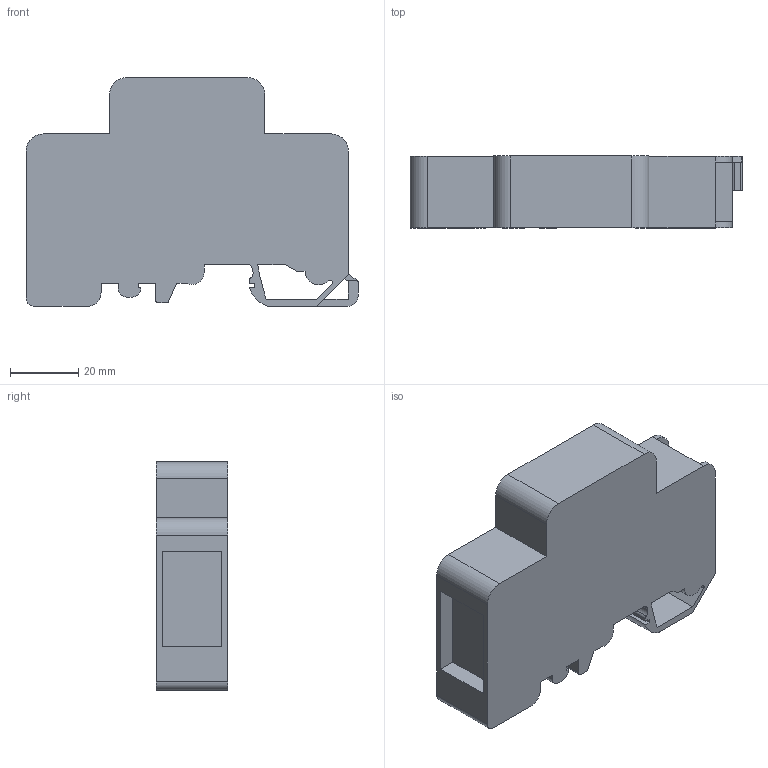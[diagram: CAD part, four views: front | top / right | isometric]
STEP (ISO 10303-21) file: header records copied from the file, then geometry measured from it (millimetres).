
FILE_DESCRIPTION(/* description */ ('Unknown'),/* implementation_level */ '2;1');
FILE_NAME(/* name */ 'DTB 35_2x16+2x6',/* time_stamp */ '2024-05-27T06:33:11+02:00',/* author */ ('Unknown'),/* organization */ ('Unknown'),/* preprocessor_version */ 'ST-DEVELOPER v19.4',/* originating_system */ 'Solid Edge',/* authorisation */ 'Unknown');
FILE_SCHEMA (('AUTOMOTIVE_DESIGN {1 0 10303 214 3 1 1}'));
Length unit declared in the file: millimetre
Products named in the file (1): DTB 35_2x16+2x6
Bounding box: 97.3 x 21 x 67 mm (x, y, z)
Volume: 95861.4 mm3; surface area: 20226.7 mm2
Topology: 1 solids, 1 shells, 78 faces, 224 edges, 148 vertices
Faces by surface type: plane 54, cylinder 24
Entity records: 2583 total; most frequent: CARTESIAN_POINT 451, ORIENTED_EDGE 448, DIRECTION 431, EDGE_CURVE 224, LINE 175, VECTOR 175, VERTEX_POINT 148, AXIS2_PLACEMENT_3D 128
